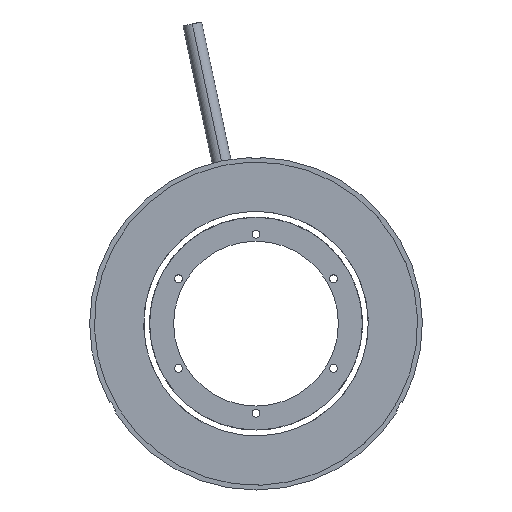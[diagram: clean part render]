
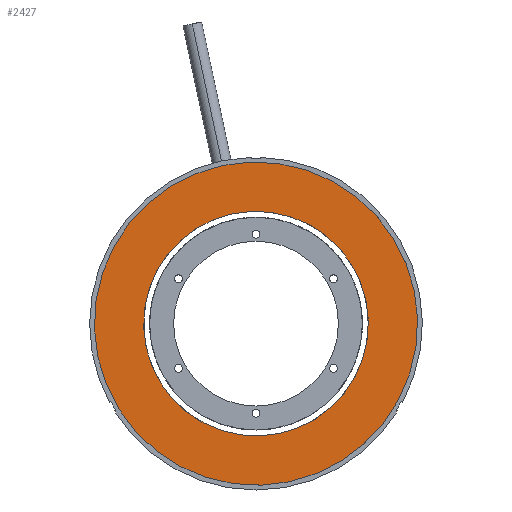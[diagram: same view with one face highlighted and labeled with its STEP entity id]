
A CAD part, front view. The second image highlights one B-rep face of the part: STEP entity #2427.
In plain terms, the highlighted planar face has unit normal (0, -1, 0).
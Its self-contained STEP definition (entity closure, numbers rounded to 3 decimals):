
#57 = FACE_BOUND ( 'NONE', #3053, .T. ) ;
#179 = CARTESIAN_POINT ( 'NONE',  ( 10.073, 48.082, 131.169 ) ) ;
#693 = FACE_OUTER_BOUND ( 'NONE', #4150, .T. ) ;
#892 = CIRCLE ( 'NONE', #6517, 35.45 ) ;
#921 = CARTESIAN_POINT ( 'NONE',  ( 20.548, 48.082, 81.256 ) ) ;
#1010 = DIRECTION ( 'NONE',  ( 0., 1., 0. ) ) ;
#1082 = EDGE_CURVE ( 'NONE', #1453, #4363, #892, .T. ) ;
#1165 = AXIS2_PLACEMENT_3D ( 'NONE', #921, #1010, #4329 ) ;
#1203 = ORIENTED_EDGE ( 'NONE', *, *, #1082, .T. ) ;
#1453 = VERTEX_POINT ( 'NONE', #4384 ) ;
#1683 = CARTESIAN_POINT ( 'NONE',  ( 20.548, 48.082, 81.256 ) ) ;
#1992 = CIRCLE ( 'NONE', #2260, 35.45 ) ;
#2260 = AXIS2_PLACEMENT_3D ( 'NONE', #7687, #7041, #7731 ) ;
#2382 = ORIENTED_EDGE ( 'NONE', *, *, #4346, .F. ) ;
#2427 = ADVANCED_FACE ( 'NONE', ( #693, #57 ), #2664, .F. ) ;
#2664 = PLANE ( 'NONE',  #6162 ) ;
#3053 = EDGE_LOOP ( 'NONE', ( #1203, #6210 ) ) ;
#3377 = VERTEX_POINT ( 'NONE', #4851 ) ;
#4000 = DIRECTION ( 'NONE',  ( 0., 1., 0. ) ) ;
#4150 = EDGE_LOOP ( 'NONE', ( #5663, #2382 ) ) ;
#4329 = DIRECTION ( 'NONE',  ( -0.205, 0., 0.979 ) ) ;
#4346 = EDGE_CURVE ( 'NONE', #5047, #3377, #4486, .T. ) ;
#4363 = VERTEX_POINT ( 'NONE', #7574 ) ;
#4384 = CARTESIAN_POINT ( 'NONE',  ( 27.829, 48.082, 46.562 ) ) ;
#4486 = CIRCLE ( 'NONE', #1165, 51. ) ;
#4611 = DIRECTION ( 'NONE',  ( -0.205, 0., 0.979 ) ) ;
#4649 = CARTESIAN_POINT ( 'NONE',  ( 20.548, 48.082, 81.256 ) ) ;
#4851 = CARTESIAN_POINT ( 'NONE',  ( 31.023, 48.082, 31.343 ) ) ;
#5047 = VERTEX_POINT ( 'NONE', #179 ) ;
#5175 = CARTESIAN_POINT ( 'NONE',  ( 20.548, 48.082, 81.256 ) ) ;
#5472 = AXIS2_PLACEMENT_3D ( 'NONE', #5175, #6531, #4611 ) ;
#5591 = DIRECTION ( 'NONE',  ( -0.205, 0., 0.979 ) ) ;
#5663 = ORIENTED_EDGE ( 'NONE', *, *, #7665, .F. ) ;
#6162 = AXIS2_PLACEMENT_3D ( 'NONE', #4649, #4000, #6614 ) ;
#6210 = ORIENTED_EDGE ( 'NONE', *, *, #6482, .T. ) ;
#6482 = EDGE_CURVE ( 'NONE', #4363, #1453, #1992, .T. ) ;
#6517 = AXIS2_PLACEMENT_3D ( 'NONE', #1683, #6912, #5591 ) ;
#6531 = DIRECTION ( 'NONE',  ( 0., 1., 0. ) ) ;
#6614 = DIRECTION ( 'NONE',  ( -0.205, 0., 0.979 ) ) ;
#6912 = DIRECTION ( 'NONE',  ( 0., 1., 0. ) ) ;
#7041 = DIRECTION ( 'NONE',  ( 0., 1., 0. ) ) ;
#7532 = CIRCLE ( 'NONE', #5472, 51. ) ;
#7574 = CARTESIAN_POINT ( 'NONE',  ( 13.267, 48.082, 115.95 ) ) ;
#7665 = EDGE_CURVE ( 'NONE', #3377, #5047, #7532, .T. ) ;
#7687 = CARTESIAN_POINT ( 'NONE',  ( 20.548, 48.082, 81.256 ) ) ;
#7731 = DIRECTION ( 'NONE',  ( -0.205, 0., 0.979 ) ) ;
